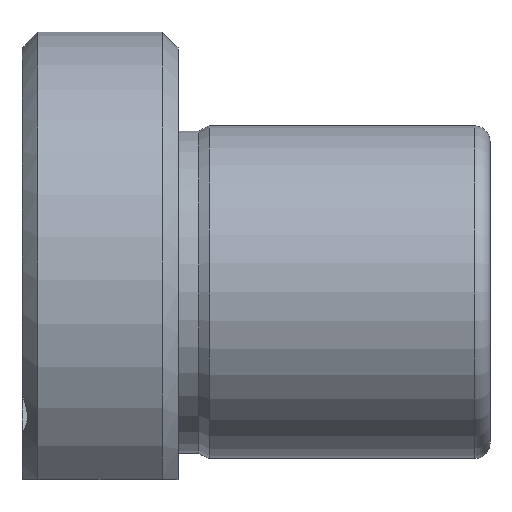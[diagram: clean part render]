
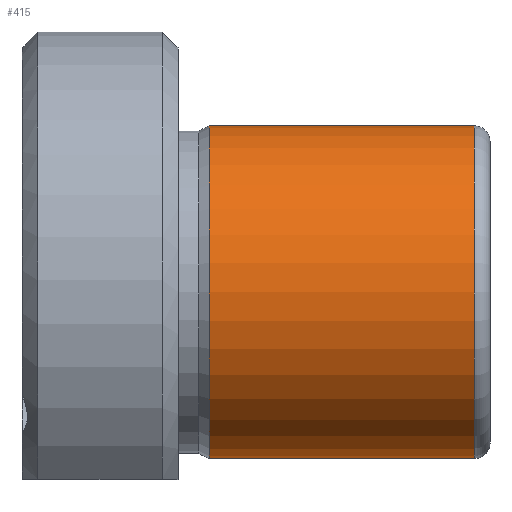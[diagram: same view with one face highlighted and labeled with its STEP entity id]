
A CAD part, top view. The second image highlights one B-rep face of the part: STEP entity #415.
In plain terms, the highlighted cylindrical face has radius 16 mm (diameter 32 mm), a full revolution.
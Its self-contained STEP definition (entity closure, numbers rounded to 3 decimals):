
#43=LINE('',#696,#57);
#57=VECTOR('',#571,16.);
#70=CYLINDRICAL_SURFACE('',#479,16.);
#85=FACE_OUTER_BOUND('',#110,.T.);
#110=EDGE_LOOP('',(#300,#301,#302,#303,#304));
#153=CIRCLE('',#477,16.);
#154=CIRCLE('',#478,16.);
#155=CIRCLE('',#480,16.);
#187=VERTEX_POINT('',#689);
#188=VERTEX_POINT('',#691);
#189=VERTEX_POINT('',#695);
#229=EDGE_CURVE('',#187,#188,#153,.T.);
#230=EDGE_CURVE('',#188,#187,#154,.T.);
#231=EDGE_CURVE('',#188,#189,#43,.T.);
#232=EDGE_CURVE('',#189,#189,#155,.T.);
#300=ORIENTED_EDGE('',*,*,#230,.F.);
#301=ORIENTED_EDGE('',*,*,#231,.T.);
#302=ORIENTED_EDGE('',*,*,#232,.T.);
#303=ORIENTED_EDGE('',*,*,#231,.F.);
#304=ORIENTED_EDGE('',*,*,#229,.F.);
#415=ADVANCED_FACE('',(#85),#70,.T.);
#477=AXIS2_PLACEMENT_3D('',#692,#565,#566);
#478=AXIS2_PLACEMENT_3D('',#693,#567,#568);
#479=AXIS2_PLACEMENT_3D('',#694,#569,#570);
#480=AXIS2_PLACEMENT_3D('',#697,#572,#573);
#565=DIRECTION('center_axis',(1.,0.,0.));
#566=DIRECTION('ref_axis',(0.,-1.,0.));
#567=DIRECTION('center_axis',(1.,0.,0.));
#568=DIRECTION('ref_axis',(0.,-1.,0.));
#569=DIRECTION('center_axis',(1.,0.,0.));
#570=DIRECTION('ref_axis',(0.,1.,0.));
#571=DIRECTION('',(-1.,0.,0.));
#572=DIRECTION('center_axis',(1.,0.,0.));
#573=DIRECTION('ref_axis',(0.,0.,-1.));
#689=CARTESIAN_POINT('',(43.5,0.,16.));
#691=CARTESIAN_POINT('',(43.5,-16.,0.));
#692=CARTESIAN_POINT('Origin',(43.5,0.,0.));
#693=CARTESIAN_POINT('Origin',(43.5,0.,0.));
#694=CARTESIAN_POINT('Origin',(31.5,0.,0.));
#695=CARTESIAN_POINT('',(18.,-16.,0.));
#696=CARTESIAN_POINT('',(31.5,-16.,0.));
#697=CARTESIAN_POINT('Origin',(18.,0.,0.));
